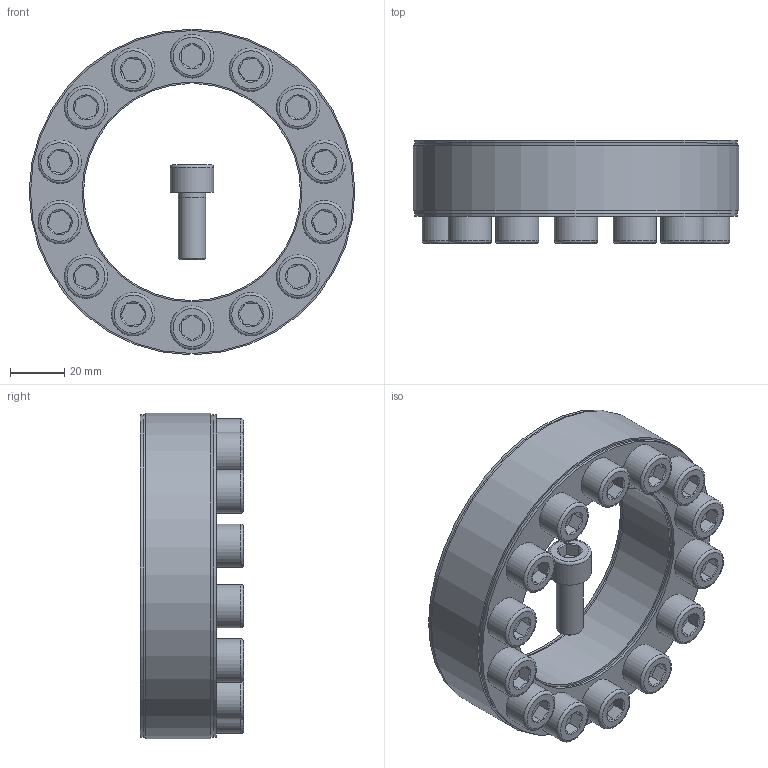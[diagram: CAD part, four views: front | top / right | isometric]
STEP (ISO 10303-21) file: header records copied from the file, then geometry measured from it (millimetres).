
FILE_DESCRIPTION( ( 'Unknown' ), '1' );
FILE_NAME( 'C:/Dokumente und Einstellungen/Sven/Desktop/homepage/cad - homepage/KBS40/KBS 40 - 80 x 120.stp', 'Unknown', ( 'Unknown' ), ( 'Unknown' ), 'XStep 1.0', 'Unknown', ' ' );
FILE_SCHEMA( ( 'automotive_design' ) );
Length unit declared in the file: millimetre
Products named in the file (16): Assem1; KBS 40 80x120; ISO 4762 M10x25; ISO 4762 M10x25-oa0; ISO 4762 M10x25-oa1; ISO 4762 M10x25-oa2; ISO 4762 M10x25-oa3; ISO 4762 M10x25-oa4; ISO 4762 M10x25-oa5; ISO 4762 M10x25-oa6; ISO 4762 M10x25-oa7; ISO 4762 M10x25-oa8; ISO 4762 M10x25-oa9; ISO 4762 M10x25-oa10; ISO 4762 M10x25-oa11; ISO 4762 M10x25-oa12
Bounding box: 120 x 38 x 119.99 mm (x, y, z)
Volume: 390284.9 mm3; surface area: 132340.6 mm2
Topology: 30 solids, 30 shells, 788 faces, 1456 edges, 840 vertices
Faces by surface type: plane 376, cone 204, cylinder 152, torus 56
Full cylindrical faces by diameter (mm): 9 x28, 10 x84, 16 x28, 81 x4, 119 x4
Entity records: 9689 total; most frequent: CARTESIAN_POINT 2022, DIRECTION 1600, ORIENTED_EDGE 1156, AXIS2_PLACEMENT_3D 696, EDGE_LOOP 600, EDGE_CURVE 578, FACE_OUTER_BOUND 496, ADVANCED_FACE 394
